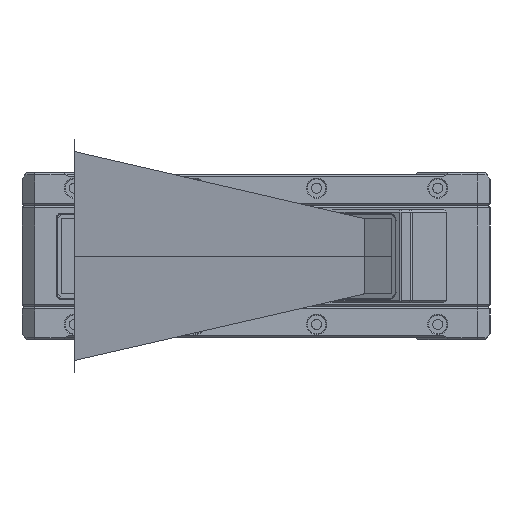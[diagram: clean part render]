
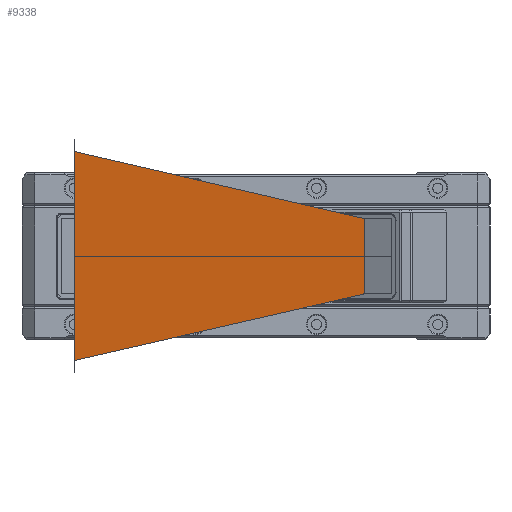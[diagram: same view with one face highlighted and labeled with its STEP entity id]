
A CAD part, front view. The second image highlights one B-rep face of the part: STEP entity #9338.
In plain terms, the highlighted planar face has unit normal (0.866, -0.5, 0).
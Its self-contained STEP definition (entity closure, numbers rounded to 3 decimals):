
#838 = ORIENTED_EDGE ( 'NONE', *, *, #1719, .F. ) ;
#1375 = ORIENTED_EDGE ( 'NONE', *, *, #43442, .F. ) ;
#1719 = EDGE_CURVE ( 'NONE', #60159, #51398, #58682, .T. ) ;
#3789 = CARTESIAN_POINT ( 'NONE',  ( -43.499, -136.001, 25.071 ) ) ;
#3790 = CARTESIAN_POINT ( 'NONE',  ( 25.95, -15.709, -9. ) ) ;
#4432 = DIRECTION ( 'NONE',  ( -0.866, 0.5, 0. ) ) ;
#4940 = ORIENTED_EDGE ( 'NONE', *, *, #44533, .F. ) ;
#9207 = DIRECTION ( 'NONE',  ( 0., 0., 1. ) ) ;
#9263 = VERTEX_POINT ( 'NONE', #3789 ) ;
#9338 = ADVANCED_FACE ( 'NONE', ( #18059 ), #58681, .F. ) ;
#10107 = CARTESIAN_POINT ( 'NONE',  ( -43.499, -136.001, -24.929 ) ) ;
#13994 = VERTEX_POINT ( 'NONE', #15063 ) ;
#15063 = CARTESIAN_POINT ( 'NONE',  ( 25.95, -15.709, 9. ) ) ;
#18059 = FACE_OUTER_BOUND ( 'NONE', #19084, .T. ) ;
#18188 = CARTESIAN_POINT ( 'NONE',  ( -43.499, -136.001, -24.929 ) ) ;
#19084 = EDGE_LOOP ( 'NONE', ( #36382, #1375, #838, #4940 ) ) ;
#21934 = LINE ( 'NONE', #18188, #45523 ) ;
#22439 = VECTOR ( 'NONE', #29416, 1000. ) ;
#29416 = DIRECTION ( 'NONE',  ( -0.497, -0.86, -0.114 ) ) ;
#32981 = EDGE_CURVE ( 'NONE', #9263, #13994, #45026, .T. ) ;
#34536 = AXIS2_PLACEMENT_3D ( 'NONE', #45378, #4432, #50329 ) ;
#36382 = ORIENTED_EDGE ( 'NONE', *, *, #32981, .F. ) ;
#39074 = CARTESIAN_POINT ( 'NONE',  ( 25.95, -15.709, 9. ) ) ;
#43442 = EDGE_CURVE ( 'NONE', #51398, #9263, #21934, .T. ) ;
#44533 = EDGE_CURVE ( 'NONE', #13994, #60159, #54313, .T. ) ;
#45026 = LINE ( 'NONE', #56296, #61129 ) ;
#45378 = CARTESIAN_POINT ( 'NONE',  ( 26.265, -15.164, 0. ) ) ;
#45523 = VECTOR ( 'NONE', #9207, 1000. ) ;
#47141 = CARTESIAN_POINT ( 'NONE',  ( 25.95, -15.709, -9. ) ) ;
#50329 = DIRECTION ( 'NONE',  ( -0.5, -0.866, 0. ) ) ;
#51398 = VERTEX_POINT ( 'NONE', #10107 ) ;
#51900 = VECTOR ( 'NONE', #59314, 1000. ) ;
#54313 = LINE ( 'NONE', #39074, #51900 ) ;
#56296 = CARTESIAN_POINT ( 'NONE',  ( -43.499, -136.001, 25.071 ) ) ;
#58681 = PLANE ( 'NONE',  #34536 ) ;
#58682 = LINE ( 'NONE', #3790, #22439 ) ;
#59314 = DIRECTION ( 'NONE',  ( 0., 0., -1. ) ) ;
#60159 = VERTEX_POINT ( 'NONE', #47141 ) ;
#60947 = DIRECTION ( 'NONE',  ( 0.497, 0.86, -0.115 ) ) ;
#61129 = VECTOR ( 'NONE', #60947, 1000. ) ;
